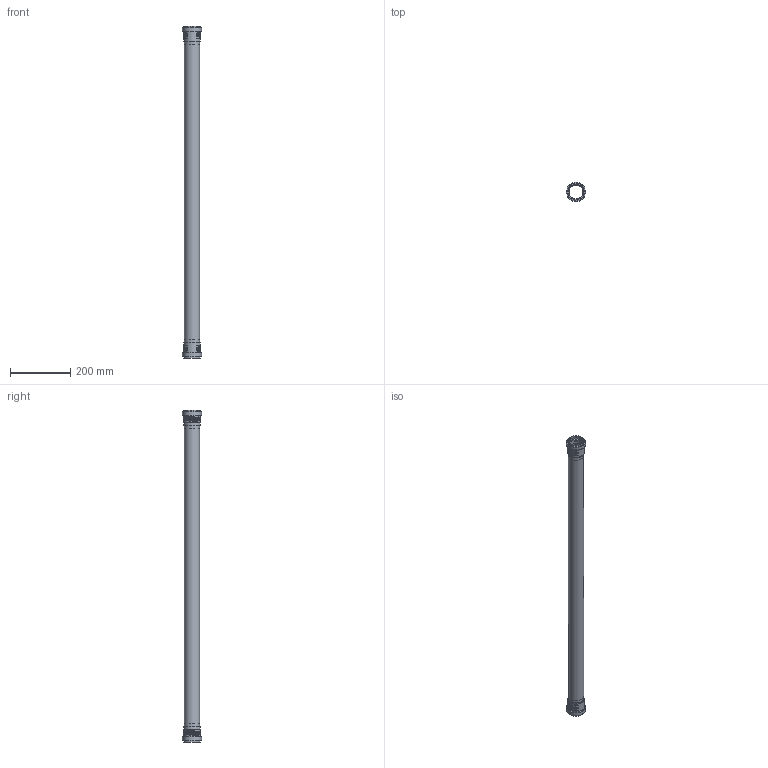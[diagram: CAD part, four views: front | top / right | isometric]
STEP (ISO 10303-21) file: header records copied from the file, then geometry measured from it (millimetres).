
FILE_DESCRIPTION(/* description */ (''),/* implementation_level */ '2;1');
FILE_NAME(/* name */ 'Z:\Geberit\Export\NewStep\Rohr2Muffen_Iassembly\stp\390211.stp',/* time_stamp */ '2014-04-03T17:49:06+02:00',/* author */ ('ML'),/* organization */ (''),/* preprocessor_version */ 'ST-DEVELOPER v15.2',/* originating_system */ 'Autodesk Inventor 2014',/* authorisation */ '');
FILE_SCHEMA (('AUTOMOTIVE_DESIGN { 1 0 10303 214 3 1 1 }'));
Length unit declared in the file: millimetre
Products named in the file (3): 861536; 861582ohne; 390211
Bounding box: 63.5 x 63.5 x 1101.6 mm (x, y, z)
Volume: 351173.1 mm3; surface area: 353424.2 mm2
Topology: 3 solids, 3 shells, 88 faces, 198 edges, 136 vertices
Faces by surface type: torus 48, cylinder 20, plane 18, cone 2
Full cylindrical faces by diameter (mm): 46.15 x3, 50.15 x3, 50.8 x4, 52.8 x2, 54.8 x4, 59.5 x2, 63.5 x2
Entity records: 1958 total; most frequent: CARTESIAN_POINT 928, DIRECTION 180, ORIENTED_EDGE 172, AXIS2_PLACEMENT_3D 90, EDGE_CURVE 86, EDGE_LOOP 76, VERTEX_POINT 70, B_SPLINE_CURVE_WITH_KNOTS 48
